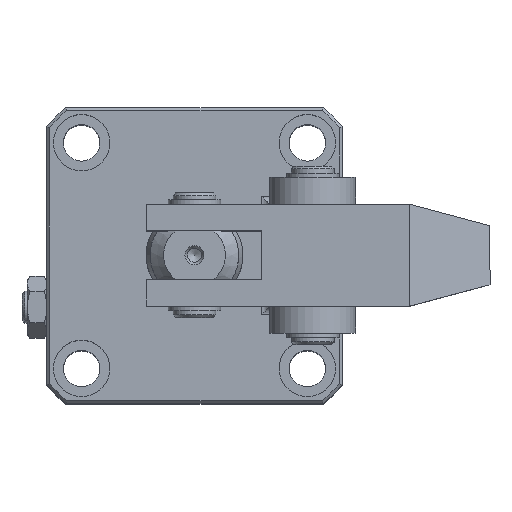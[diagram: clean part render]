
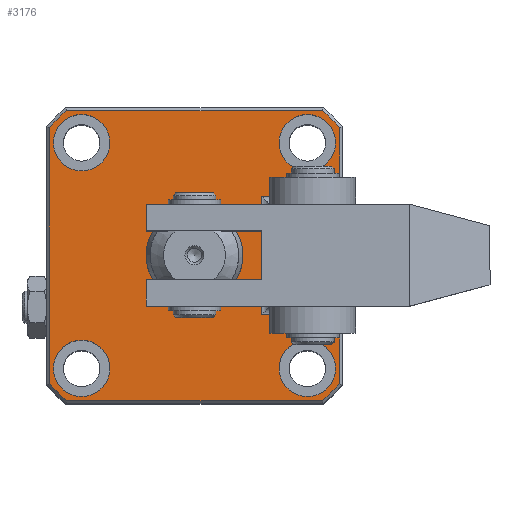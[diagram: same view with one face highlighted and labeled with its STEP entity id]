
A CAD part, top view. The second image highlights one B-rep face of the part: STEP entity #3176.
In plain terms, the highlighted planar face has unit normal (0, 0, 1).
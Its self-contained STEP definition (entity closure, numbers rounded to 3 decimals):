
#259=CIRCLE('',#3487,36.);
#260=CIRCLE('',#3488,36.);
#261=CIRCLE('',#3489,36.);
#262=CIRCLE('',#3490,36.);
#263=CIRCLE('',#3491,5.25);
#264=CIRCLE('',#3492,5.25);
#265=CIRCLE('',#3493,5.25);
#266=CIRCLE('',#3494,5.25);
#267=CIRCLE('',#3495,9.);
#411=PLANE('',#3486);
#511=LINE('',#4835,#675);
#512=LINE('',#4838,#676);
#513=LINE('',#4840,#677);
#514=LINE('',#4844,#678);
#515=LINE('',#4848,#679);
#516=LINE('',#4852,#680);
#517=LINE('',#4856,#681);
#518=LINE('',#4858,#682);
#675=VECTOR('',#3889,1000.);
#676=VECTOR('',#3890,1000.);
#677=VECTOR('',#3891,1000.);
#678=VECTOR('',#3894,1000.);
#679=VECTOR('',#3897,1000.);
#680=VECTOR('',#3900,1000.);
#681=VECTOR('',#3903,1000.);
#682=VECTOR('',#3904,1000.);
#843=ORIENTED_EDGE('',*,*,#1719,.T.);
#844=ORIENTED_EDGE('',*,*,#1720,.T.);
#845=ORIENTED_EDGE('',*,*,#1721,.T.);
#846=ORIENTED_EDGE('',*,*,#1722,.T.);
#847=ORIENTED_EDGE('',*,*,#1723,.T.);
#848=ORIENTED_EDGE('',*,*,#1724,.T.);
#849=ORIENTED_EDGE('',*,*,#1725,.T.);
#850=ORIENTED_EDGE('',*,*,#1726,.T.);
#851=ORIENTED_EDGE('',*,*,#1727,.T.);
#852=ORIENTED_EDGE('',*,*,#1728,.T.);
#853=ORIENTED_EDGE('',*,*,#1729,.T.);
#854=ORIENTED_EDGE('',*,*,#1730,.T.);
#855=ORIENTED_EDGE('',*,*,#1731,.F.);
#856=ORIENTED_EDGE('',*,*,#1732,.F.);
#857=ORIENTED_EDGE('',*,*,#1733,.F.);
#858=ORIENTED_EDGE('',*,*,#1734,.F.);
#859=ORIENTED_EDGE('',*,*,#1735,.T.);
#1719=EDGE_CURVE('',#2157,#2158,#511,.F.);
#1720=EDGE_CURVE('',#2158,#2159,#512,.F.);
#1721=EDGE_CURVE('',#2159,#2160,#513,.T.);
#1722=EDGE_CURVE('',#2160,#2161,#259,.T.);
#1723=EDGE_CURVE('',#2161,#2162,#514,.T.);
#1724=EDGE_CURVE('',#2162,#2163,#260,.T.);
#1725=EDGE_CURVE('',#2163,#2164,#515,.T.);
#1726=EDGE_CURVE('',#2164,#2165,#261,.T.);
#1727=EDGE_CURVE('',#2165,#2166,#516,.T.);
#1728=EDGE_CURVE('',#2166,#2167,#262,.T.);
#1729=EDGE_CURVE('',#2167,#2168,#517,.T.);
#1730=EDGE_CURVE('',#2168,#2157,#518,.F.);
#1731=EDGE_CURVE('',#2169,#2169,#263,.T.);
#1732=EDGE_CURVE('',#2170,#2170,#264,.T.);
#1733=EDGE_CURVE('',#2171,#2171,#265,.T.);
#1734=EDGE_CURVE('',#2172,#2172,#266,.T.);
#1735=EDGE_CURVE('',#2173,#2173,#267,.T.);
#2157=VERTEX_POINT('',#4836);
#2158=VERTEX_POINT('',#4837);
#2159=VERTEX_POINT('',#4839);
#2160=VERTEX_POINT('',#4841);
#2161=VERTEX_POINT('',#4843);
#2162=VERTEX_POINT('',#4845);
#2163=VERTEX_POINT('',#4847);
#2164=VERTEX_POINT('',#4849);
#2165=VERTEX_POINT('',#4851);
#2166=VERTEX_POINT('',#4853);
#2167=VERTEX_POINT('',#4855);
#2168=VERTEX_POINT('',#4857);
#2169=VERTEX_POINT('',#4860);
#2170=VERTEX_POINT('',#4862);
#2171=VERTEX_POINT('',#4864);
#2172=VERTEX_POINT('',#4866);
#2173=VERTEX_POINT('',#4868);
#2464=EDGE_LOOP('',(#843,#844,#845,#846,#847,#848,#849,#850,#851,#852,#853,
#854));
#2465=EDGE_LOOP('',(#855));
#2466=EDGE_LOOP('',(#856));
#2467=EDGE_LOOP('',(#857));
#2468=EDGE_LOOP('',(#858));
#2469=EDGE_LOOP('',(#859));
#2786=FACE_BOUND('',#2464,.T.);
#2787=FACE_BOUND('',#2465,.T.);
#2788=FACE_BOUND('',#2466,.T.);
#2789=FACE_BOUND('',#2467,.T.);
#2790=FACE_BOUND('',#2468,.T.);
#2791=FACE_BOUND('',#2469,.T.);
#3176=ADVANCED_FACE('',(#2786,#2787,#2788,#2789,#2790,#2791),#411,.T.);
#3486=AXIS2_PLACEMENT_3D('',#4834,#3887,#3888);
#3487=AXIS2_PLACEMENT_3D('',#4842,#3892,#3893);
#3488=AXIS2_PLACEMENT_3D('',#4846,#3895,#3896);
#3489=AXIS2_PLACEMENT_3D('',#4850,#3898,#3899);
#3490=AXIS2_PLACEMENT_3D('',#4854,#3901,#3902);
#3491=AXIS2_PLACEMENT_3D('',#4859,#3905,#3906);
#3492=AXIS2_PLACEMENT_3D('',#4861,#3907,#3908);
#3493=AXIS2_PLACEMENT_3D('',#4863,#3909,#3910);
#3494=AXIS2_PLACEMENT_3D('',#4865,#3911,#3912);
#3495=AXIS2_PLACEMENT_3D('',#4867,#3913,#3914);
#3887=DIRECTION('',(0.,0.,1.));
#3888=DIRECTION('',(0.,-1.,0.));
#3889=DIRECTION('',(0.,-1.,0.));
#3890=DIRECTION('',(-1.,0.,0.));
#3891=DIRECTION('',(0.,1.,0.));
#3892=DIRECTION('',(0.,0.,1.));
#3893=DIRECTION('',(0.,-1.,0.));
#3894=DIRECTION('',(-1.,0.,0.));
#3895=DIRECTION('',(0.,0.,1.));
#3896=DIRECTION('',(0.,-1.,0.));
#3897=DIRECTION('',(0.,-1.,0.));
#3898=DIRECTION('',(0.,0.,1.));
#3899=DIRECTION('',(0.,-1.,0.));
#3900=DIRECTION('',(1.,0.,0.));
#3901=DIRECTION('',(0.,0.,1.));
#3902=DIRECTION('',(0.,-1.,0.));
#3903=DIRECTION('',(0.,1.,0.));
#3904=DIRECTION('',(1.,0.,0.));
#3905=DIRECTION('',(0.,0.,1.));
#3906=DIRECTION('',(1.,0.,0.));
#3907=DIRECTION('',(0.,0.,1.));
#3908=DIRECTION('',(1.,0.,0.));
#3909=DIRECTION('',(0.,0.,1.));
#3910=DIRECTION('',(1.,0.,0.));
#3911=DIRECTION('',(0.,0.,1.));
#3912=DIRECTION('',(1.,0.,0.));
#3913=DIRECTION('',(0.,0.,-1.));
#3914=DIRECTION('',(0.,-1.,0.));
#4834=CARTESIAN_POINT('',(0.,0.,76.));
#4835=CARTESIAN_POINT('',(12.5,9.5,76.));
#4836=CARTESIAN_POINT('',(12.5,-11.,76.));
#4837=CARTESIAN_POINT('',(12.5,11.,76.));
#4838=CARTESIAN_POINT('',(27.,11.,76.));
#4839=CARTESIAN_POINT('',(27.,11.,76.));
#4840=CARTESIAN_POINT('',(27.,0.,76.));
#4841=CARTESIAN_POINT('',(27.,23.812,76.));
#4842=CARTESIAN_POINT('',(0.,0.,76.));
#4843=CARTESIAN_POINT('',(23.812,27.,76.));
#4844=CARTESIAN_POINT('',(0.,27.,76.));
#4845=CARTESIAN_POINT('',(-23.812,27.,76.));
#4846=CARTESIAN_POINT('',(0.,0.,76.));
#4847=CARTESIAN_POINT('',(-27.,23.812,76.));
#4848=CARTESIAN_POINT('',(-27.,0.,76.));
#4849=CARTESIAN_POINT('',(-27.,-23.812,76.));
#4850=CARTESIAN_POINT('',(0.,0.,76.));
#4851=CARTESIAN_POINT('',(-23.812,-27.,76.));
#4852=CARTESIAN_POINT('',(0.,-27.,76.));
#4853=CARTESIAN_POINT('',(23.812,-27.,76.));
#4854=CARTESIAN_POINT('',(0.,0.,76.));
#4855=CARTESIAN_POINT('',(27.,-23.812,76.));
#4856=CARTESIAN_POINT('',(27.,0.,76.));
#4857=CARTESIAN_POINT('',(27.,-11.,76.));
#4858=CARTESIAN_POINT('',(0.,-11.,76.));
#4859=CARTESIAN_POINT('',(-21.,21.,76.));
#4860=CARTESIAN_POINT('',(-15.75,21.,76.));
#4861=CARTESIAN_POINT('',(21.,21.,76.));
#4862=CARTESIAN_POINT('',(26.25,21.,76.));
#4863=CARTESIAN_POINT('',(21.,-21.,76.));
#4864=CARTESIAN_POINT('',(26.25,-21.,76.));
#4865=CARTESIAN_POINT('',(-21.,-21.,76.));
#4866=CARTESIAN_POINT('',(-15.75,-21.,76.));
#4867=CARTESIAN_POINT('',(0.,0.,76.));
#4868=CARTESIAN_POINT('',(0.,-9.,76.));
